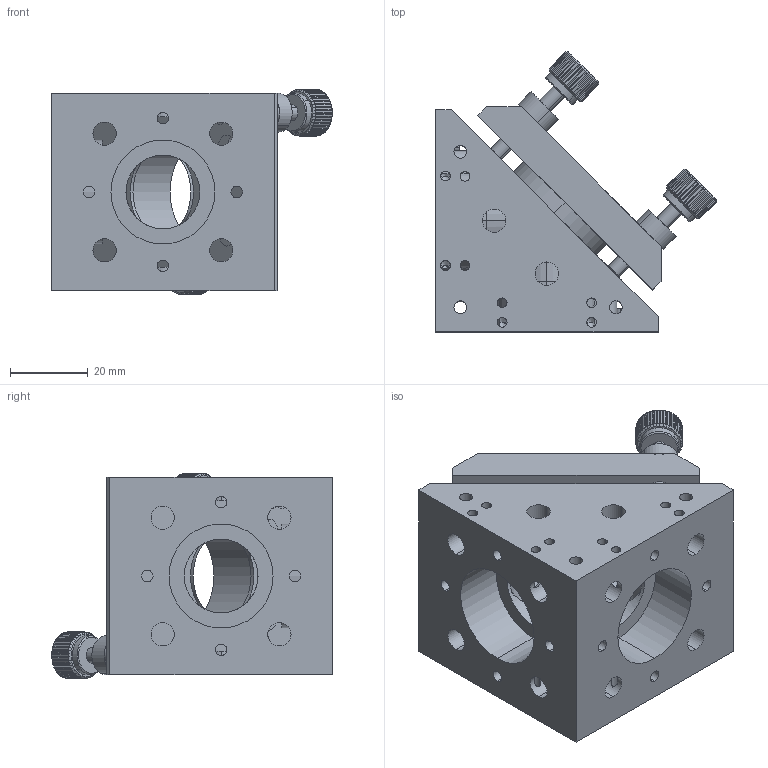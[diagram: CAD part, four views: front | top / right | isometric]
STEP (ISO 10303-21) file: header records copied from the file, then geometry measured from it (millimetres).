
FILE_DESCRIPTION (( 'STEP AP203' ), '1' );
FILE_NAME ('CM-26M02.STEP', '2017-01-06T06:42:05', ( 'user' ), ( '' ), 'SwSTEP 2.0', 'SolidWorks 2012', '' );
FILE_SCHEMA (( 'CONFIG_CONTROL_DESIGN' ));
Length unit declared in the file: millimetre
Products named in the file (1): CM-26M02
Bounding box: 72.16 x 72.16 x 52.8 mm (x, y, z)
Surface area: 31911.3 mm2 (no closed solid volume)
Topology: 0 solids, 10 shells, 494 faces, 1484 edges, 987 vertices
Faces by surface type: cylinder 236, plane 224, cone 34
Entity records: 17844 total; most frequent: CARTESIAN_POINT 4743, ORIENTED_EDGE 2778, DIRECTION 2585, EDGE_CURVE 1466, AXIS2_PLACEMENT_3D 1035, VERTEX_POINT 987, EDGE_LOOP 600, CIRCLE 540
